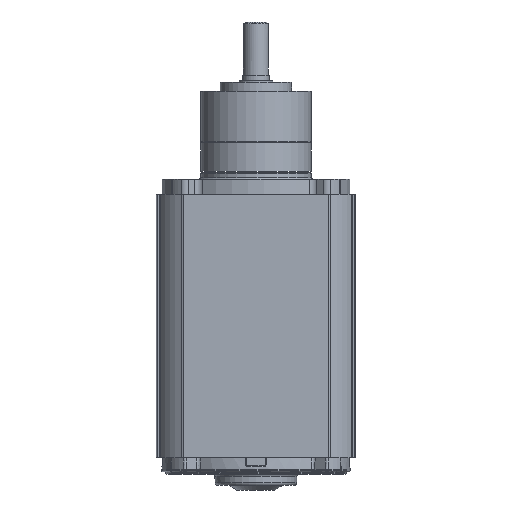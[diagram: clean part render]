
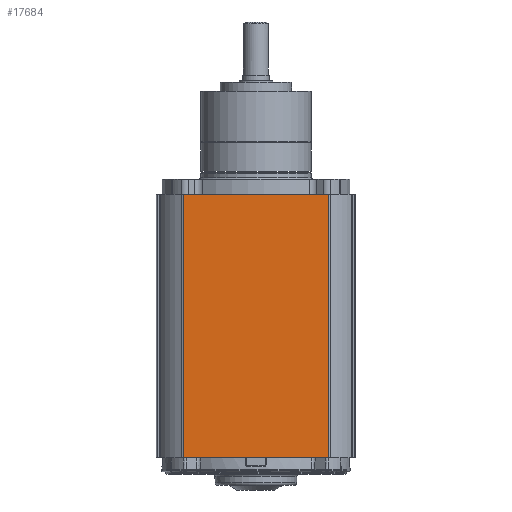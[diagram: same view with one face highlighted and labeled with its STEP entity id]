
A CAD part, front view. The second image highlights one B-rep face of the part: STEP entity #17684.
In plain terms, the highlighted planar face has unit normal (0, -1, 0).
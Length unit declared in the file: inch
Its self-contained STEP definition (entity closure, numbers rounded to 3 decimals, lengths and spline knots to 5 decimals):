
#432 = DIRECTION ( 'NONE',  ( -1., 0., 0. ) ) ;
#696 = VERTEX_POINT ( 'NONE', #4744 ) ;
#870 = VECTOR ( 'NONE', #33221, 39.37008 ) ;
#1914 = CARTESIAN_POINT ( 'NONE',  ( -1.64, -2.21, 0. ) ) ;
#2037 = DIRECTION ( 'NONE',  ( 0., 0., -1. ) ) ;
#2825 = ORIENTED_EDGE ( 'NONE', *, *, #21745, .F. ) ;
#3980 = FACE_OUTER_BOUND ( 'NONE', #4756, .T. ) ;
#4063 = ORIENTED_EDGE ( 'NONE', *, *, #19367, .T. ) ;
#4744 = CARTESIAN_POINT ( 'NONE',  ( 1.61, -2.21, -5.827 ) ) ;
#4756 = EDGE_LOOP ( 'NONE', ( #4063, #9939, #7796, #2825 ) ) ;
#7796 = ORIENTED_EDGE ( 'NONE', *, *, #16497, .T. ) ;
#9411 = AXIS2_PLACEMENT_3D ( 'NONE', #39329, #20737, #2037 ) ;
#9939 = ORIENTED_EDGE ( 'NONE', *, *, #21436, .F. ) ;
#10131 = LINE ( 'NONE', #1914, #870 ) ;
#10375 = VERTEX_POINT ( 'NONE', #29014 ) ;
#12828 = CARTESIAN_POINT ( 'NONE',  ( -1.61, -2.21, -5.827 ) ) ;
#13353 = VECTOR ( 'NONE', #38214, 39.37008 ) ;
#15365 = VECTOR ( 'NONE', #19531, 39.37008 ) ;
#16471 = CARTESIAN_POINT ( 'NONE',  ( -1.61, -2.21, -6.004 ) ) ;
#16497 = EDGE_CURVE ( 'NONE', #696, #26204, #31904, .T. ) ;
#16539 = LINE ( 'NONE', #12828, #24807 ) ;
#17684 = ADVANCED_FACE ( 'NONE', ( #3980 ), #36065, .T. ) ;
#19367 = EDGE_CURVE ( 'NONE', #10375, #39354, #37242, .T. ) ;
#19531 = DIRECTION ( 'NONE',  ( 0., 0., 1. ) ) ;
#20737 = DIRECTION ( 'NONE',  ( 0., -1., 0. ) ) ;
#21436 = EDGE_CURVE ( 'NONE', #696, #39354, #16539, .T. ) ;
#21745 = EDGE_CURVE ( 'NONE', #10375, #26204, #10131, .T. ) ;
#24807 = VECTOR ( 'NONE', #432, 39.37008 ) ;
#26204 = VERTEX_POINT ( 'NONE', #31268 ) ;
#29014 = CARTESIAN_POINT ( 'NONE',  ( -1.61, -2.21, 0. ) ) ;
#31268 = CARTESIAN_POINT ( 'NONE',  ( 1.61, -2.21, 0. ) ) ;
#31904 = LINE ( 'NONE', #38136, #15365 ) ;
#33221 = DIRECTION ( 'NONE',  ( 1., 0., 0. ) ) ;
#36065 = PLANE ( 'NONE',  #9411 ) ;
#36427 = CARTESIAN_POINT ( 'NONE',  ( -1.61, -2.21, -5.827 ) ) ;
#37242 = LINE ( 'NONE', #16471, #13353 ) ;
#38136 = CARTESIAN_POINT ( 'NONE',  ( 1.61, -2.21, -6.004 ) ) ;
#38214 = DIRECTION ( 'NONE',  ( 0., 0., -1. ) ) ;
#39329 = CARTESIAN_POINT ( 'NONE',  ( -1.64, -2.21, -6.004 ) ) ;
#39354 = VERTEX_POINT ( 'NONE', #36427 ) ;
